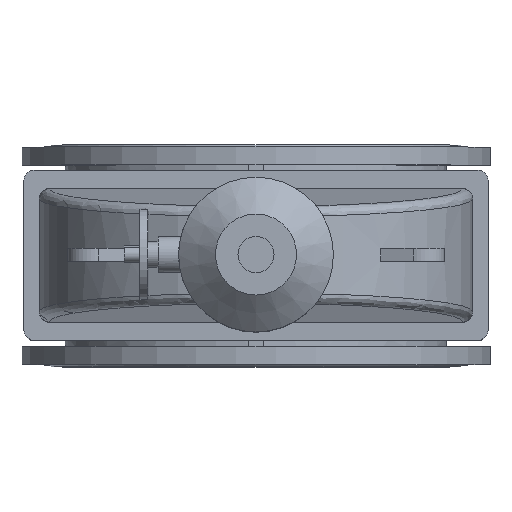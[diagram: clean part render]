
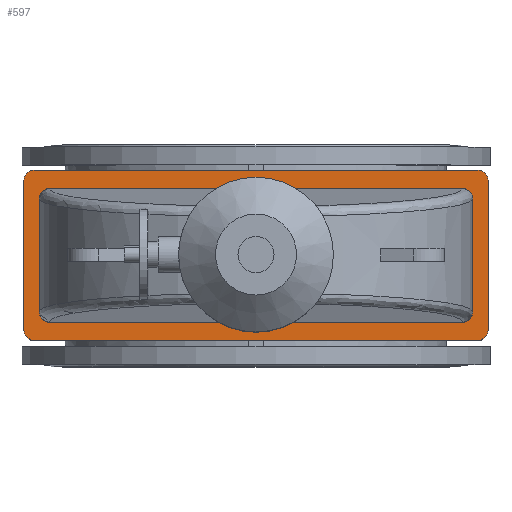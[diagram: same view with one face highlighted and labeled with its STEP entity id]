
A CAD part, top view. The second image highlights one B-rep face of the part: STEP entity #597.
In plain terms, the highlighted planar face has unit normal (0, 0, 1).
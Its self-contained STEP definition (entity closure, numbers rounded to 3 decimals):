
#597=ADVANCED_FACE('',(#4014,#4016),#4018,.T.);
#4014=FACE_BOUND('',#4015,.T.);
#4015=EDGE_LOOP('',(#8478,#8479,#8480,#8481,#8482,#8483,#8484,#8485));
#4016=FACE_BOUND('',#4017,.T.);
#4017=EDGE_LOOP('',(#8486,#8487,#8488,#8489,#8490,#8491,#8492,#8493));
#4018=PLANE('',#4019);
#4019=AXIS2_PLACEMENT_3D('',#4020,#4021,#4022);
#4020=CARTESIAN_POINT('',(0.,0.,816.));
#4021=DIRECTION('',(0.,-0.,1.));
#4022=DIRECTION('',(0.,1.,0.));
#8478=ORIENTED_EDGE('',*,*,#9736,.F.);
#8479=ORIENTED_EDGE('',*,*,#9737,.T.);
#8480=ORIENTED_EDGE('',*,*,#9738,.F.);
#8481=ORIENTED_EDGE('',*,*,#9739,.T.);
#8482=ORIENTED_EDGE('',*,*,#9740,.F.);
#8483=ORIENTED_EDGE('',*,*,#9741,.T.);
#8484=ORIENTED_EDGE('',*,*,#9742,.F.);
#8485=ORIENTED_EDGE('',*,*,#9743,.T.);
#8486=ORIENTED_EDGE('',*,*,#9734,.F.);
#8487=ORIENTED_EDGE('',*,*,#9733,.F.);
#8488=ORIENTED_EDGE('',*,*,#9735,.F.);
#8489=ORIENTED_EDGE('',*,*,#9708,.F.);
#8490=ORIENTED_EDGE('',*,*,#9744,.F.);
#8491=ORIENTED_EDGE('',*,*,#9745,.F.);
#8492=ORIENTED_EDGE('',*,*,#9746,.F.);
#8493=ORIENTED_EDGE('',*,*,#9701,.F.);
#9701=EDGE_CURVE('',#10424,#10426,#10427,.T.);
#9708=EDGE_CURVE('',#10436,#10434,#10438,.T.);
#9733=EDGE_CURVE('',#10477,#10475,#10479,.T.);
#9734=EDGE_CURVE('',#10475,#10424,#10480,.F.);
#9735=EDGE_CURVE('',#10434,#10477,#10481,.T.);
#9736=EDGE_CURVE('',#10482,#10483,#10484,.F.);
#9737=EDGE_CURVE('',#10482,#10485,#10486,.T.);
#9738=EDGE_CURVE('',#10487,#10485,#10488,.F.);
#9739=EDGE_CURVE('',#10487,#10489,#10490,.T.);
#9740=EDGE_CURVE('',#10491,#10489,#10492,.F.);
#9741=EDGE_CURVE('',#10491,#10493,#10494,.T.);
#9742=EDGE_CURVE('',#10495,#10493,#10496,.F.);
#9743=EDGE_CURVE('',#10495,#10483,#10497,.T.);
#9744=EDGE_CURVE('',#10498,#10436,#10499,.F.);
#9745=EDGE_CURVE('',#10500,#10498,#10501,.T.);
#9746=EDGE_CURVE('',#10426,#10500,#10502,.T.);
#10424=VERTEX_POINT('',#11922);
#10426=VERTEX_POINT('',#11926);
#10427=LINE('',#11927,#11928);
#10434=VERTEX_POINT('',#11947);
#10436=VERTEX_POINT('',#11951);
#10438=LINE('',#11955,#11956);
#10475=VERTEX_POINT('',#12048);
#10477=VERTEX_POINT('',#12052);
#10479=LINE('',#12056,#12057);
#10480=(BOUNDED_CURVE()B_SPLINE_CURVE(3,
(#12059,#12060,#12061,#12062),
.UNSPECIFIED.,.F.,.F.)B_SPLINE_CURVE_WITH_KNOTS((4,4),
(0.,1.),
.UNSPECIFIED.)CURVE()GEOMETRIC_REPRESENTATION_ITEM()RATIONAL_B_SPLINE_CURVE((1.,
0.805,0.805,1.))REPRESENTATION_ITEM(''));
#10481=(BOUNDED_CURVE()B_SPLINE_CURVE(3,
(#12063,#12064,#12065,#12066),
.UNSPECIFIED.,.F.,.F.)B_SPLINE_CURVE_WITH_KNOTS((4,4),
(0.,1.),
.UNSPECIFIED.)CURVE()GEOMETRIC_REPRESENTATION_ITEM()RATIONAL_B_SPLINE_CURVE((1.,
0.805,0.805,1.))REPRESENTATION_ITEM(''));
#10482=VERTEX_POINT('',#12067);
#10483=VERTEX_POINT('',#12068);
#10484=CIRCLE('',#12069,20.);
#10485=VERTEX_POINT('',#12073);
#10486=LINE('',#12074,#12075);
#10487=VERTEX_POINT('',#12077);
#10488=CIRCLE('',#12078,20.);
#10489=VERTEX_POINT('',#12082);
#10490=LINE('',#12083,#12084);
#10491=VERTEX_POINT('',#12086);
#10492=CIRCLE('',#12087,20.);
#10493=VERTEX_POINT('',#12091);
#10494=LINE('',#12092,#12093);
#10495=VERTEX_POINT('',#12095);
#10496=CIRCLE('',#12096,20.);
#10497=LINE('',#12100,#12101);
#10498=VERTEX_POINT('',#12103);
#10499=(BOUNDED_CURVE()B_SPLINE_CURVE(3,
(#12104,#12105,#12106,#12107),
.UNSPECIFIED.,.F.,.F.)B_SPLINE_CURVE_WITH_KNOTS((4,4),
(0.,1.),
.UNSPECIFIED.)CURVE()GEOMETRIC_REPRESENTATION_ITEM()RATIONAL_B_SPLINE_CURVE((1.,
0.805,0.805,1.))REPRESENTATION_ITEM(''));
#10500=VERTEX_POINT('',#12108);
#10501=LINE('',#12109,#12110);
#10502=(BOUNDED_CURVE()B_SPLINE_CURVE(3,
(#12112,#12113,#12114,#12115),
.UNSPECIFIED.,.F.,.F.)B_SPLINE_CURVE_WITH_KNOTS((4,4),
(0.,1.),
.UNSPECIFIED.)CURVE()GEOMETRIC_REPRESENTATION_ITEM()RATIONAL_B_SPLINE_CURVE((1.,
0.805,0.805,1.))REPRESENTATION_ITEM(''));
#11922=CARTESIAN_POINT('',(420.,-109.924,816.));
#11926=CARTESIAN_POINT('',(420.,109.924,816.));
#11927=CARTESIAN_POINT('',(420.,-109.924,816.));
#11928=VECTOR('',#11929,1.);
#11929=DIRECTION('',(0.,1.,0.));
#11947=CARTESIAN_POINT('',(-420.,-109.924,816.));
#11951=CARTESIAN_POINT('',(-420.,109.924,816.));
#11955=CARTESIAN_POINT('',(-420.,109.924,816.));
#11956=VECTOR('',#11957,1.);
#11957=DIRECTION('',(0.,-1.,0.));
#12048=CARTESIAN_POINT('',(400.,-130.,816.));
#12052=CARTESIAN_POINT('',(-400.,-130.,816.));
#12056=CARTESIAN_POINT('',(-400.,-130.,816.));
#12057=VECTOR('',#12058,1.);
#12058=DIRECTION('',(1.,0.,0.));
#12059=CARTESIAN_POINT('',(420.,-109.924,816.));
#12060=CARTESIAN_POINT('',(420.,-121.684,816.));
#12061=CARTESIAN_POINT('',(411.716,-130.,816.));
#12062=CARTESIAN_POINT('',(400.,-130.,816.));
#12063=CARTESIAN_POINT('',(-420.,-109.924,816.));
#12064=CARTESIAN_POINT('',(-420.,-121.684,816.));
#12065=CARTESIAN_POINT('',(-411.716,-130.,816.));
#12066=CARTESIAN_POINT('',(-400.,-130.,816.));
#12067=CARTESIAN_POINT('',(-430.,-165.,816.));
#12068=CARTESIAN_POINT('',(-450.,-145.,816.));
#12069=AXIS2_PLACEMENT_3D('',#12070,#12071,#12072);
#12070=CARTESIAN_POINT('',(-430.,-145.,816.));
#12071=DIRECTION('',(0.,-0.,1.));
#12072=DIRECTION('',(-1.,0.,0.));
#12073=CARTESIAN_POINT('',(430.,-165.,816.));
#12074=CARTESIAN_POINT('',(-430.,-165.,816.));
#12075=VECTOR('',#12076,1.);
#12076=DIRECTION('',(1.,0.,0.));
#12077=CARTESIAN_POINT('',(450.,-145.,816.));
#12078=AXIS2_PLACEMENT_3D('',#12079,#12080,#12081);
#12079=CARTESIAN_POINT('',(430.,-145.,816.));
#12080=DIRECTION('',(0.,-0.,1.));
#12081=DIRECTION('',(0.,-1.,0.));
#12082=CARTESIAN_POINT('',(450.,145.,816.));
#12083=CARTESIAN_POINT('',(450.,-145.,816.));
#12084=VECTOR('',#12085,1.);
#12085=DIRECTION('',(0.,1.,0.));
#12086=CARTESIAN_POINT('',(430.,165.,816.));
#12087=AXIS2_PLACEMENT_3D('',#12088,#12089,#12090);
#12088=CARTESIAN_POINT('',(430.,145.,816.));
#12089=DIRECTION('',(0.,-0.,1.));
#12090=DIRECTION('',(1.,0.,0.));
#12091=CARTESIAN_POINT('',(-430.,165.,816.));
#12092=CARTESIAN_POINT('',(430.,165.,816.));
#12093=VECTOR('',#12094,1.);
#12094=DIRECTION('',(-1.,0.,0.));
#12095=CARTESIAN_POINT('',(-450.,145.,816.));
#12096=AXIS2_PLACEMENT_3D('',#12097,#12098,#12099);
#12097=CARTESIAN_POINT('',(-430.,145.,816.));
#12098=DIRECTION('',(0.,-0.,1.));
#12099=DIRECTION('',(0.,1.,0.));
#12100=CARTESIAN_POINT('',(-450.,145.,816.));
#12101=VECTOR('',#12102,1.);
#12102=DIRECTION('',(0.,-1.,0.));
#12103=CARTESIAN_POINT('',(-400.,130.,816.));
#12104=CARTESIAN_POINT('',(-420.,109.924,816.));
#12105=CARTESIAN_POINT('',(-420.,121.684,816.));
#12106=CARTESIAN_POINT('',(-411.716,130.,816.));
#12107=CARTESIAN_POINT('',(-400.,130.,816.));
#12108=CARTESIAN_POINT('',(400.,130.,816.));
#12109=CARTESIAN_POINT('',(400.,130.,816.));
#12110=VECTOR('',#12111,1.);
#12111=DIRECTION('',(-1.,0.,0.));
#12112=CARTESIAN_POINT('',(420.,109.924,816.));
#12113=CARTESIAN_POINT('',(420.,121.684,816.));
#12114=CARTESIAN_POINT('',(411.716,130.,816.));
#12115=CARTESIAN_POINT('',(400.,130.,816.));
